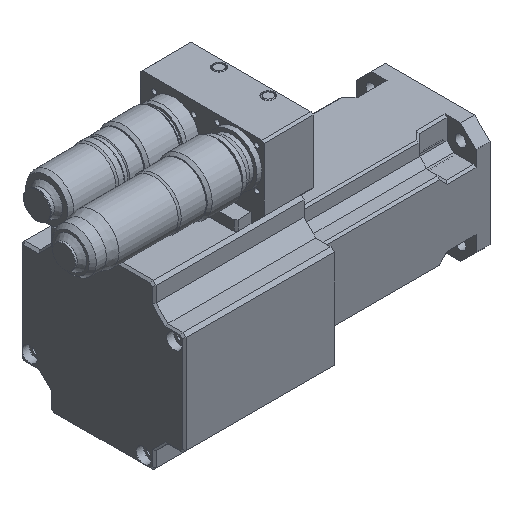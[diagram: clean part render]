
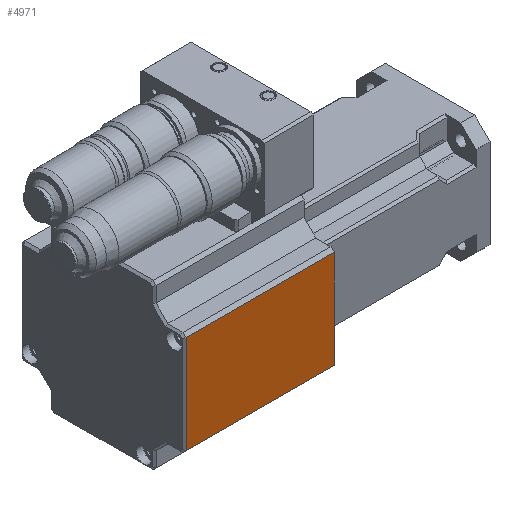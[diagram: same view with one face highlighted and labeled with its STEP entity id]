
A CAD part, isometric view. The second image highlights one B-rep face of the part: STEP entity #4971.
In plain terms, the highlighted planar face has unit normal (0, -1, 0).
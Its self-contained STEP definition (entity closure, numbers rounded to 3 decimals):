
#4069=CARTESIAN_POINT('',(4.621,-31.649,-34.));
#4070=VERTEX_POINT('',#4069);
#4100=CARTESIAN_POINT('',(4.621,-31.649,-83.));
#4101=VERTEX_POINT('',#4100);
#4102=CARTESIAN_POINT('',(4.621,-31.649,-83.));
#4103=DIRECTION('',(0.0,0.,1.0));
#4104=VECTOR('',#4103,49.);
#4105=LINE('',#4102,#4104);
#4106=EDGE_CURVE('',#4101,#4070,#4105,.T.);
#4929=CARTESIAN_POINT('',(78.621,-31.649,-34.));
#4930=VERTEX_POINT('',#4929);
#4931=CARTESIAN_POINT('',(78.621,-31.649,-34.));
#4932=DIRECTION('',(-1.0,0.,0.));
#4933=VECTOR('',#4932,74.);
#4934=LINE('',#4931,#4933);
#4935=EDGE_CURVE('',#4930,#4070,#4934,.T.);
#4948=CARTESIAN_POINT('',(78.621,-31.649,-34.));
#4949=DIRECTION('',(0.0,-1.0,0.0));
#4950=DIRECTION('',(0.0,0.0,-1.0));
#4951=AXIS2_PLACEMENT_3D('',#4948,#4949,#4950);
#4952=PLANE('',#4951);
#4953=CARTESIAN_POINT('',(78.621,-31.649,-83.));
#4954=VERTEX_POINT('',#4953);
#4955=CARTESIAN_POINT('',(78.621,-31.649,-83.));
#4956=DIRECTION('',(-1.0,0.0,0.0));
#4957=VECTOR('',#4956,74.);
#4958=LINE('',#4955,#4957);
#4959=EDGE_CURVE('',#4954,#4101,#4958,.T.);
#4960=ORIENTED_EDGE('',*,*,#4959,.F.);
#4961=CARTESIAN_POINT('',(78.621,-31.649,-34.));
#4962=DIRECTION('',(0.0,0.0,-1.0));
#4963=VECTOR('',#4962,49.);
#4964=LINE('',#4961,#4963);
#4965=EDGE_CURVE('',#4930,#4954,#4964,.T.);
#4966=ORIENTED_EDGE('',*,*,#4965,.F.);
#4967=ORIENTED_EDGE('',*,*,#4935,.T.);
#4968=ORIENTED_EDGE('',*,*,#4106,.F.);
#4969=EDGE_LOOP('',(#4960,#4966,#4967,#4968));
#4970=FACE_OUTER_BOUND('',#4969,.T.);
#4971=ADVANCED_FACE('',(#4970),#4952,.T.);
